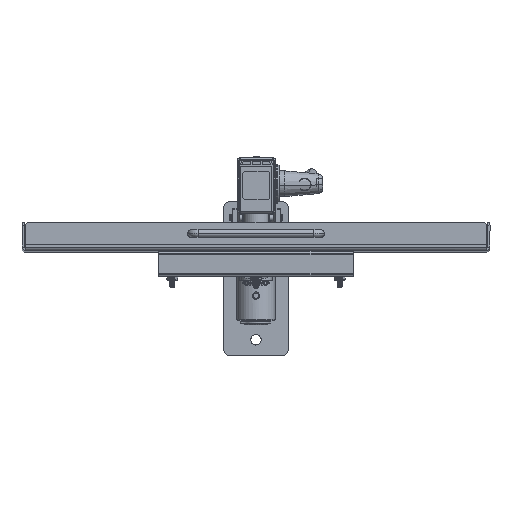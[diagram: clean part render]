
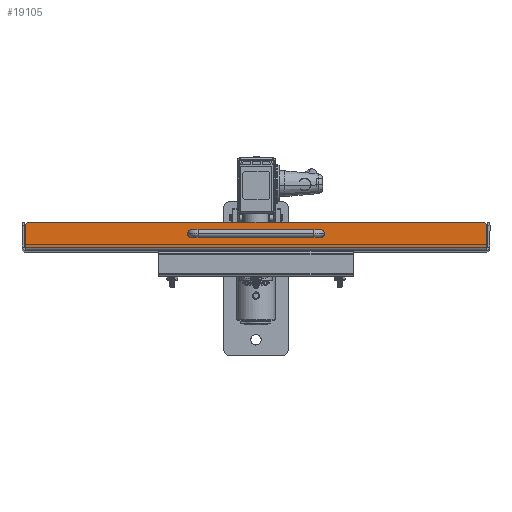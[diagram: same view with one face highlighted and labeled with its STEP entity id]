
A CAD part, top view. The second image highlights one B-rep face of the part: STEP entity #19105.
In plain terms, the highlighted planar face has unit normal (0, 0.004, 1) as drawn and (0, 0, 1) by its records, which use the part's own axes.
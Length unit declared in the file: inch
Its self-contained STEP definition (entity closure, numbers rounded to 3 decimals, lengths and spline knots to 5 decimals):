
#227 = ORIENTED_EDGE ( 'NONE', *, *, #66731, .F. ) ;
#421 = ORIENTED_EDGE ( 'NONE', *, *, #3446, .T. ) ;
#1674 = AXIS2_PLACEMENT_3D ( 'NONE', #87557, #73052, #45510 ) ;
#1882 = CIRCLE ( 'NONE', #67522, 0.1005 ) ;
#2761 = VERTEX_POINT ( 'NONE', #27452 ) ;
#3396 = CARTESIAN_POINT ( 'NONE',  ( -8.75, 1., 6.09 ) ) ;
#3446 = EDGE_CURVE ( 'NONE', #2761, #21810, #13470, .T. ) ;
#3572 = CIRCLE ( 'NONE', #88696, 0.1005 ) ;
#3969 = CARTESIAN_POINT ( 'NONE',  ( 8.75, 0.75, 6.09 ) ) ;
#5332 = VERTEX_POINT ( 'NONE', #53663 ) ;
#5530 = EDGE_CURVE ( 'NONE', #5332, #28601, #12405, .T. ) ;
#7093 = CARTESIAN_POINT ( 'NONE',  ( -8.96464, 0.87817, 6.09 ) ) ;
#8057 = DIRECTION ( 'NONE',  ( 1., 0., 0. ) ) ;
#9944 = LINE ( 'NONE', #87100, #57404 ) ;
#11757 = VERTEX_POINT ( 'NONE', #50766 ) ;
#12405 = CIRCLE ( 'NONE', #40827, 0.1005 ) ;
#12459 = EDGE_LOOP ( 'NONE', ( #79491, #50877, #57522, #227, #12605, #32541 ) ) ;
#12605 = ORIENTED_EDGE ( 'NONE', *, *, #22195, .T. ) ;
#12752 = EDGE_LOOP ( 'NONE', ( #44376, #421 ) ) ;
#12808 = DIRECTION ( 'NONE',  ( -1., 0., 0. ) ) ;
#12926 = DIRECTION ( 'NONE',  ( -1., 0., 0. ) ) ;
#13470 = CIRCLE ( 'NONE', #47840, 0.1005 ) ;
#14553 = LINE ( 'NONE', #21138, #67741 ) ;
#14593 = CARTESIAN_POINT ( 'NONE',  ( -8.96464, 0.75, 6.09 ) ) ;
#15977 = LINE ( 'NONE', #14593, #42363 ) ;
#16434 = DIRECTION ( 'NONE',  ( 0., -1., 0. ) ) ;
#18742 = VERTEX_POINT ( 'NONE', #68155 ) ;
#19105 = ADVANCED_FACE ( 'NONE', ( #50325, #84936, #63907 ), #49882, .T. ) ;
#19383 = AXIS2_PLACEMENT_3D ( 'NONE', #3969, #81110, #32490 ) ;
#19612 = DIRECTION ( 'NONE',  ( 0., -1., 0. ) ) ;
#20015 = VERTEX_POINT ( 'NONE', #86126 ) ;
#21138 = CARTESIAN_POINT ( 'NONE',  ( 8.75, 1., 6.09 ) ) ;
#21810 = VERTEX_POINT ( 'NONE', #89482 ) ;
#22195 = EDGE_CURVE ( 'NONE', #48470, #18742, #15977, .T. ) ;
#23763 = EDGE_CURVE ( 'NONE', #28601, #5332, #3572, .T. ) ;
#23887 = EDGE_CURVE ( 'NONE', #61202, #90690, #14553, .T. ) ;
#26529 = DIRECTION ( 'NONE',  ( 0., 0., -1. ) ) ;
#27452 = CARTESIAN_POINT ( 'NONE',  ( -2.6005, 0.55, 6.09 ) ) ;
#28601 = VERTEX_POINT ( 'NONE', #77537 ) ;
#32490 = DIRECTION ( 'NONE',  ( 0., -1., 0. ) ) ;
#32541 = ORIENTED_EDGE ( 'NONE', *, *, #32600, .T. ) ;
#32600 = EDGE_CURVE ( 'NONE', #18742, #20015, #9944, .T. ) ;
#38680 = AXIS2_PLACEMENT_3D ( 'NONE', #92387, #44262, #71356 ) ;
#39355 = CARTESIAN_POINT ( 'NONE',  ( 8.75, 1., 6.09 ) ) ;
#40671 = ORIENTED_EDGE ( 'NONE', *, *, #5530, .T. ) ;
#40721 = CARTESIAN_POINT ( 'NONE',  ( 8.96464, 0.75, 6.09 ) ) ;
#40827 = AXIS2_PLACEMENT_3D ( 'NONE', #63449, #26529, #12926 ) ;
#42363 = VECTOR ( 'NONE', #16434, 39.37008 ) ;
#44262 = DIRECTION ( 'NONE',  ( 0., 0., 1. ) ) ;
#44376 = ORIENTED_EDGE ( 'NONE', *, *, #69918, .T. ) ;
#44893 = DIRECTION ( 'NONE',  ( 0., 0., -1. ) ) ;
#45510 = DIRECTION ( 'NONE',  ( 0., -1., 0. ) ) ;
#47840 = AXIS2_PLACEMENT_3D ( 'NONE', #54467, #76879, #12808 ) ;
#48470 = VERTEX_POINT ( 'NONE', #7093 ) ;
#49220 = DIRECTION ( 'NONE',  ( 0., 0., -1. ) ) ;
#49882 = PLANE ( 'NONE',  #38680 ) ;
#50287 = EDGE_CURVE ( 'NONE', #11757, #20015, #63573, .T. ) ;
#50325 = FACE_BOUND ( 'NONE', #12752, .T. ) ;
#50583 = CARTESIAN_POINT ( 'NONE',  ( 2.5, 0.55, 6.09 ) ) ;
#50766 = CARTESIAN_POINT ( 'NONE',  ( 8.96464, 0.87817, 6.09 ) ) ;
#50877 = ORIENTED_EDGE ( 'NONE', *, *, #53422, .F. ) ;
#51165 = ORIENTED_EDGE ( 'NONE', *, *, #23763, .T. ) ;
#53422 = EDGE_CURVE ( 'NONE', #90690, #11757, #82092, .T. ) ;
#53663 = CARTESIAN_POINT ( 'NONE',  ( 2.6005, 0.55, 6.09 ) ) ;
#54467 = CARTESIAN_POINT ( 'NONE',  ( -2.5, 0.55, 6.09 ) ) ;
#55036 = VECTOR ( 'NONE', #19612, 39.37008 ) ;
#57404 = VECTOR ( 'NONE', #74008, 39.37008 ) ;
#57522 = ORIENTED_EDGE ( 'NONE', *, *, #23887, .F. ) ;
#60314 = CARTESIAN_POINT ( 'NONE',  ( -2.5, 0.55, 6.09 ) ) ;
#61202 = VERTEX_POINT ( 'NONE', #3396 ) ;
#63449 = CARTESIAN_POINT ( 'NONE',  ( 2.5, 0.55, 6.09 ) ) ;
#63573 = LINE ( 'NONE', #40721, #55036 ) ;
#63907 = FACE_BOUND ( 'NONE', #82327, .T. ) ;
#66731 = EDGE_CURVE ( 'NONE', #48470, #61202, #88208, .T. ) ;
#66806 = DIRECTION ( 'NONE',  ( -1., 0., 0. ) ) ;
#67522 = AXIS2_PLACEMENT_3D ( 'NONE', #60314, #44893, #66806 ) ;
#67741 = VECTOR ( 'NONE', #8057, 39.37008 ) ;
#68155 = CARTESIAN_POINT ( 'NONE',  ( -8.96464, 0.032, 6.09 ) ) ;
#69918 = EDGE_CURVE ( 'NONE', #21810, #2761, #1882, .T. ) ;
#71356 = DIRECTION ( 'NONE',  ( 0., -1., 0. ) ) ;
#73052 = DIRECTION ( 'NONE',  ( 0., 0., -1. ) ) ;
#74008 = DIRECTION ( 'NONE',  ( 1., 0., 0. ) ) ;
#76879 = DIRECTION ( 'NONE',  ( 0., 0., -1. ) ) ;
#77537 = CARTESIAN_POINT ( 'NONE',  ( 2.3995, 0.55, 6.09 ) ) ;
#79491 = ORIENTED_EDGE ( 'NONE', *, *, #50287, .F. ) ;
#81110 = DIRECTION ( 'NONE',  ( 0., 0., -1. ) ) ;
#82092 = CIRCLE ( 'NONE', #19383, 0.25 ) ;
#82327 = EDGE_LOOP ( 'NONE', ( #40671, #51165 ) ) ;
#84936 = FACE_OUTER_BOUND ( 'NONE', #12459, .T. ) ;
#86126 = CARTESIAN_POINT ( 'NONE',  ( 8.96464, 0.032, 6.09 ) ) ;
#86561 = DIRECTION ( 'NONE',  ( -1., 0., 0. ) ) ;
#87100 = CARTESIAN_POINT ( 'NONE',  ( 8.75, 0.032, 6.09 ) ) ;
#87557 = CARTESIAN_POINT ( 'NONE',  ( -8.75, 0.75, 6.09 ) ) ;
#88208 = CIRCLE ( 'NONE', #1674, 0.25 ) ;
#88696 = AXIS2_PLACEMENT_3D ( 'NONE', #50583, #49220, #86561 ) ;
#89482 = CARTESIAN_POINT ( 'NONE',  ( -2.3995, 0.55, 6.09 ) ) ;
#90690 = VERTEX_POINT ( 'NONE', #39355 ) ;
#92387 = CARTESIAN_POINT ( 'NONE',  ( 8.75, 0.75, 6.09 ) ) ;
